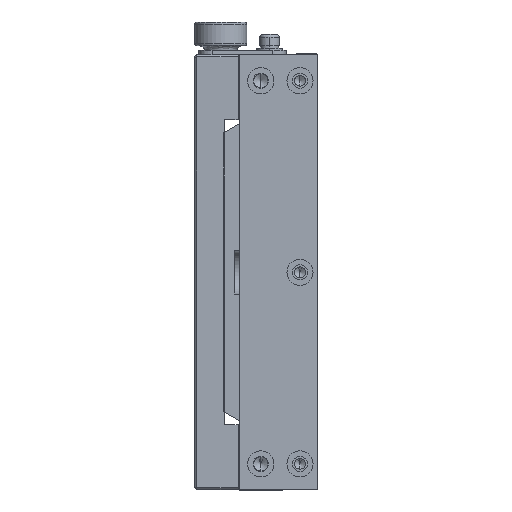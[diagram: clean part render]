
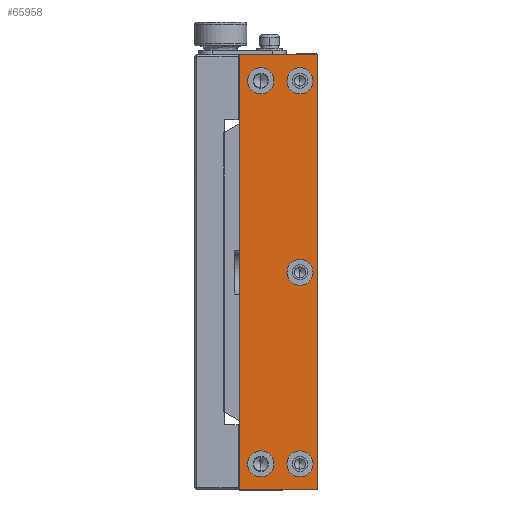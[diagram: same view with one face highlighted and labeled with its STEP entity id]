
A CAD part, left-side view. The second image highlights one B-rep face of the part: STEP entity #65958.
In plain terms, the highlighted planar face has unit normal (-1, 0, 0).
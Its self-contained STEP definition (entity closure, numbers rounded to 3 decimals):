
#421 = ORIENTED_EDGE ( 'NONE', *, *, #64827, .T. ) ;
#548 = DIRECTION ( 'NONE',  ( 1., 0., 0. ) ) ;
#626 = CIRCLE ( 'NONE', #45405, 3. ) ;
#1345 = CARTESIAN_POINT ( 'NONE',  ( -53.11, 6.331, 50. ) ) ;
#1662 = AXIS2_PLACEMENT_3D ( 'NONE', #7713, #43091, #58956 ) ;
#1831 = CIRCLE ( 'NONE', #31015, 3. ) ;
#1953 = CARTESIAN_POINT ( 'NONE',  ( -53.11, 1.331, 44. ) ) ;
#2881 = CARTESIAN_POINT ( 'NONE',  ( -53.11, -7.669, 44. ) ) ;
#3155 = AXIS2_PLACEMENT_3D ( 'NONE', #55485, #60619, #66222 ) ;
#3596 = VERTEX_POINT ( 'NONE', #38449 ) ;
#4168 = FACE_BOUND ( 'NONE', #52700, .T. ) ;
#4829 = AXIS2_PLACEMENT_3D ( 'NONE', #37944, #32560, #38383 ) ;
#5841 = EDGE_CURVE ( 'NONE', #46812, #3596, #42818, .T. ) ;
#6062 = CIRCLE ( 'NONE', #28521, 3. ) ;
#6149 = CARTESIAN_POINT ( 'NONE',  ( -53.11, -7.669, 0. ) ) ;
#6317 = VERTEX_POINT ( 'NONE', #21299 ) ;
#7009 = CARTESIAN_POINT ( 'NONE',  ( -53.11, 1.331, -47. ) ) ;
#7255 = EDGE_LOOP ( 'NONE', ( #14008, #62856 ) ) ;
#7333 = AXIS2_PLACEMENT_3D ( 'NONE', #41325, #548, #51818 ) ;
#7704 = EDGE_CURVE ( 'NONE', #14160, #54472, #1831, .T. ) ;
#7713 = CARTESIAN_POINT ( 'NONE',  ( -53.11, -7.669, 44. ) ) ;
#7960 = AXIS2_PLACEMENT_3D ( 'NONE', #40588, #50417, #35436 ) ;
#9443 = EDGE_CURVE ( 'NONE', #45290, #13714, #64998, .T. ) ;
#9495 = ORIENTED_EDGE ( 'NONE', *, *, #55269, .T. ) ;
#9773 = FACE_BOUND ( 'NONE', #57432, .T. ) ;
#9907 = AXIS2_PLACEMENT_3D ( 'NONE', #19123, #14877, #18913 ) ;
#11304 = VERTEX_POINT ( 'NONE', #56194 ) ;
#12286 = DIRECTION ( 'NONE',  ( 0., 0., 1. ) ) ;
#12415 = CARTESIAN_POINT ( 'NONE',  ( -53.11, -11.669, -50. ) ) ;
#13427 = DIRECTION ( 'NONE',  ( 1., 0., 0. ) ) ;
#13714 = VERTEX_POINT ( 'NONE', #51072 ) ;
#13790 = EDGE_CURVE ( 'NONE', #26897, #16791, #30079, .T. ) ;
#13833 = VECTOR ( 'NONE', #18180, 1000. ) ;
#14008 = ORIENTED_EDGE ( 'NONE', *, *, #9443, .T. ) ;
#14160 = VERTEX_POINT ( 'NONE', #23311 ) ;
#14877 = DIRECTION ( 'NONE',  ( -1., 0., 0. ) ) ;
#15129 = CIRCLE ( 'NONE', #53223, 3. ) ;
#15585 = VECTOR ( 'NONE', #28726, 1000. ) ;
#16791 = VERTEX_POINT ( 'NONE', #37609 ) ;
#17680 = EDGE_CURVE ( 'NONE', #3596, #52612, #31441, .T. ) ;
#18180 = DIRECTION ( 'NONE',  ( 0., 1., 0. ) ) ;
#18481 = ORIENTED_EDGE ( 'NONE', *, *, #13790, .T. ) ;
#18913 = DIRECTION ( 'NONE',  ( 0., 0., 1. ) ) ;
#19123 = CARTESIAN_POINT ( 'NONE',  ( -53.11, -11.669, 50. ) ) ;
#21141 = VERTEX_POINT ( 'NONE', #55293 ) ;
#21299 = CARTESIAN_POINT ( 'NONE',  ( -53.11, -7.669, 41. ) ) ;
#21610 = CARTESIAN_POINT ( 'NONE',  ( -53.11, 1.331, 47. ) ) ;
#22993 = CARTESIAN_POINT ( 'NONE',  ( -53.11, -7.669, -44. ) ) ;
#23311 = CARTESIAN_POINT ( 'NONE',  ( -53.11, -7.669, 3. ) ) ;
#23384 = FACE_OUTER_BOUND ( 'NONE', #47067, .T. ) ;
#24906 = ORIENTED_EDGE ( 'NONE', *, *, #5841, .T. ) ;
#24953 = EDGE_CURVE ( 'NONE', #41338, #21141, #58697, .T. ) ;
#25869 = LINE ( 'NONE', #56254, #37922 ) ;
#26897 = VERTEX_POINT ( 'NONE', #46129 ) ;
#27031 = VECTOR ( 'NONE', #33671, 1000. ) ;
#27317 = ORIENTED_EDGE ( 'NONE', *, *, #24953, .T. ) ;
#27504 = VERTEX_POINT ( 'NONE', #62093 ) ;
#27573 = CARTESIAN_POINT ( 'NONE',  ( -53.11, -11.669, 50. ) ) ;
#27741 = ORIENTED_EDGE ( 'NONE', *, *, #41195, .T. ) ;
#28521 = AXIS2_PLACEMENT_3D ( 'NONE', #30393, #50982, #35555 ) ;
#28726 = DIRECTION ( 'NONE',  ( 0., 0., 1. ) ) ;
#28948 = FACE_BOUND ( 'NONE', #37963, .T. ) ;
#29465 = CARTESIAN_POINT ( 'NONE',  ( -53.11, -11.669, -50. ) ) ;
#30079 = CIRCLE ( 'NONE', #7960, 3. ) ;
#30144 = ORIENTED_EDGE ( 'NONE', *, *, #55637, .T. ) ;
#30393 = CARTESIAN_POINT ( 'NONE',  ( -53.11, -7.669, 0. ) ) ;
#31015 = AXIS2_PLACEMENT_3D ( 'NONE', #6149, #41983, #37296 ) ;
#31441 = LINE ( 'NONE', #27573, #13833 ) ;
#32560 = DIRECTION ( 'NONE',  ( 1., 0., 0. ) ) ;
#33159 = ORIENTED_EDGE ( 'NONE', *, *, #41535, .T. ) ;
#33671 = DIRECTION ( 'NONE',  ( 0., -1., 0. ) ) ;
#35187 = EDGE_CURVE ( 'NONE', #54472, #14160, #6062, .T. ) ;
#35436 = DIRECTION ( 'NONE',  ( 0., 0., 1. ) ) ;
#35555 = DIRECTION ( 'NONE',  ( 0., 0., 1. ) ) ;
#37296 = DIRECTION ( 'NONE',  ( 0., 0., 1. ) ) ;
#37609 = CARTESIAN_POINT ( 'NONE',  ( -53.11, -7.669, -41. ) ) ;
#37922 = VECTOR ( 'NONE', #57379, 1000. ) ;
#37944 = CARTESIAN_POINT ( 'NONE',  ( -53.11, 1.331, -44. ) ) ;
#37963 = EDGE_LOOP ( 'NONE', ( #64890, #47756 ) ) ;
#38383 = DIRECTION ( 'NONE',  ( 0., 0., 1. ) ) ;
#38449 = CARTESIAN_POINT ( 'NONE',  ( -53.11, -11.669, 50. ) ) ;
#38644 = FACE_BOUND ( 'NONE', #51104, .T. ) ;
#40588 = CARTESIAN_POINT ( 'NONE',  ( -53.11, -7.669, -44. ) ) ;
#40739 = LINE ( 'NONE', #12415, #27031 ) ;
#41195 = EDGE_CURVE ( 'NONE', #27504, #6317, #626, .T. ) ;
#41325 = CARTESIAN_POINT ( 'NONE',  ( -53.11, 1.331, -44. ) ) ;
#41338 = VERTEX_POINT ( 'NONE', #7009 ) ;
#41535 = EDGE_CURVE ( 'NONE', #11304, #46812, #40739, .T. ) ;
#41983 = DIRECTION ( 'NONE',  ( 1., 0., 0. ) ) ;
#42818 = LINE ( 'NONE', #59600, #15585 ) ;
#43091 = DIRECTION ( 'NONE',  ( 1., 0., 0. ) ) ;
#43647 = DIRECTION ( 'NONE',  ( 0., 0., 1. ) ) ;
#45290 = VERTEX_POINT ( 'NONE', #21610 ) ;
#45405 = AXIS2_PLACEMENT_3D ( 'NONE', #2881, #13427, #43647 ) ;
#46129 = CARTESIAN_POINT ( 'NONE',  ( -53.11, -7.669, -47. ) ) ;
#46812 = VERTEX_POINT ( 'NONE', #29465 ) ;
#47067 = EDGE_LOOP ( 'NONE', ( #33159, #24906, #61727, #421 ) ) ;
#47756 = ORIENTED_EDGE ( 'NONE', *, *, #35187, .T. ) ;
#47993 = CARTESIAN_POINT ( 'NONE',  ( -53.11, -7.669, -3. ) ) ;
#50417 = DIRECTION ( 'NONE',  ( 1., 0., 0. ) ) ;
#50982 = DIRECTION ( 'NONE',  ( 1., 0., 0. ) ) ;
#51072 = CARTESIAN_POINT ( 'NONE',  ( -53.11, 1.331, 41. ) ) ;
#51104 = EDGE_LOOP ( 'NONE', ( #9495, #18481 ) ) ;
#51818 = DIRECTION ( 'NONE',  ( 0., 0., 1. ) ) ;
#52612 = VERTEX_POINT ( 'NONE', #1345 ) ;
#52700 = EDGE_LOOP ( 'NONE', ( #27741, #57116 ) ) ;
#53223 = AXIS2_PLACEMENT_3D ( 'NONE', #22993, #63692, #12286 ) ;
#53815 = FACE_BOUND ( 'NONE', #7255, .T. ) ;
#54472 = VERTEX_POINT ( 'NONE', #47993 ) ;
#54833 = CIRCLE ( 'NONE', #1662, 3. ) ;
#55269 = EDGE_CURVE ( 'NONE', #16791, #26897, #15129, .T. ) ;
#55293 = CARTESIAN_POINT ( 'NONE',  ( -53.11, 1.331, -41. ) ) ;
#55376 = PLANE ( 'NONE',  #9907 ) ;
#55485 = CARTESIAN_POINT ( 'NONE',  ( -53.11, 1.331, 44. ) ) ;
#55637 = EDGE_CURVE ( 'NONE', #21141, #41338, #57529, .T. ) ;
#56194 = CARTESIAN_POINT ( 'NONE',  ( -53.11, 6.331, -50. ) ) ;
#56254 = CARTESIAN_POINT ( 'NONE',  ( -53.11, 6.331, 50. ) ) ;
#57116 = ORIENTED_EDGE ( 'NONE', *, *, #61602, .T. ) ;
#57200 = EDGE_CURVE ( 'NONE', #13714, #45290, #59134, .T. ) ;
#57379 = DIRECTION ( 'NONE',  ( 0., 0., -1. ) ) ;
#57432 = EDGE_LOOP ( 'NONE', ( #30144, #27317 ) ) ;
#57529 = CIRCLE ( 'NONE', #7333, 3. ) ;
#58697 = CIRCLE ( 'NONE', #4829, 3. ) ;
#58956 = DIRECTION ( 'NONE',  ( 0., 0., 1. ) ) ;
#59004 = DIRECTION ( 'NONE',  ( 0., 0., 1. ) ) ;
#59134 = CIRCLE ( 'NONE', #61155, 3. ) ;
#59600 = CARTESIAN_POINT ( 'NONE',  ( -53.11, -11.669, 50. ) ) ;
#60619 = DIRECTION ( 'NONE',  ( 1., 0., 0. ) ) ;
#61155 = AXIS2_PLACEMENT_3D ( 'NONE', #1953, #64346, #59004 ) ;
#61602 = EDGE_CURVE ( 'NONE', #6317, #27504, #54833, .T. ) ;
#61727 = ORIENTED_EDGE ( 'NONE', *, *, #17680, .T. ) ;
#62093 = CARTESIAN_POINT ( 'NONE',  ( -53.11, -7.669, 47. ) ) ;
#62856 = ORIENTED_EDGE ( 'NONE', *, *, #57200, .T. ) ;
#63692 = DIRECTION ( 'NONE',  ( 1., 0., 0. ) ) ;
#64346 = DIRECTION ( 'NONE',  ( 1., 0., 0. ) ) ;
#64827 = EDGE_CURVE ( 'NONE', #52612, #11304, #25869, .T. ) ;
#64890 = ORIENTED_EDGE ( 'NONE', *, *, #7704, .T. ) ;
#64998 = CIRCLE ( 'NONE', #3155, 3. ) ;
#65958 = ADVANCED_FACE ( 'NONE', ( #23384, #53815, #4168, #9773, #28948, #38644 ), #55376, .T. ) ;
#66222 = DIRECTION ( 'NONE',  ( 0., 0., 1. ) ) ;
